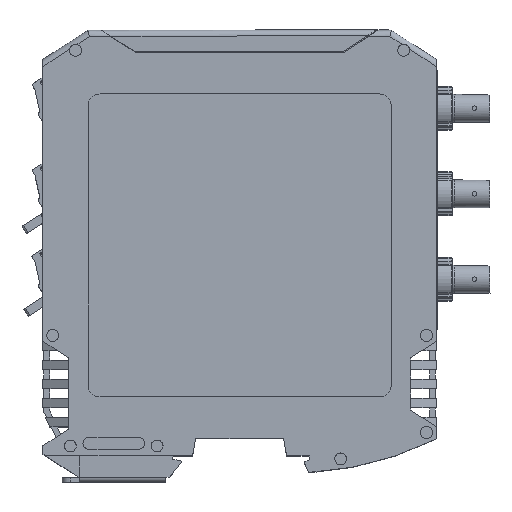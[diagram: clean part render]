
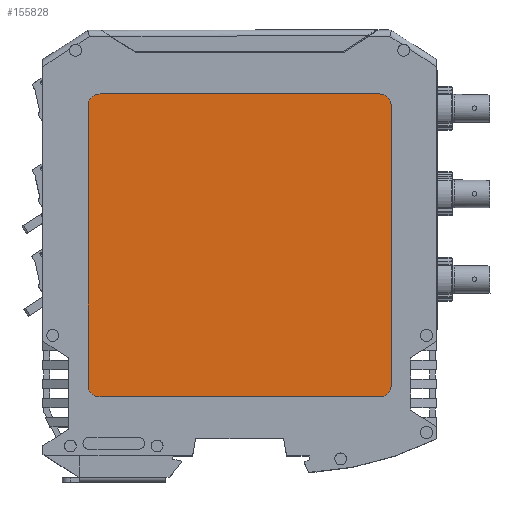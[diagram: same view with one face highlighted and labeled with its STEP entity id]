
A CAD part, top view. The second image highlights one B-rep face of the part: STEP entity #155828.
In plain terms, the highlighted planar face has unit normal (0, 0, 1).
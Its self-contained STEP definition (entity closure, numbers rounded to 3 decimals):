
#2017 = CARTESIAN_POINT ( 'NONE',  ( -35.1, 95.521, 14.1 ) ) ;
#2772 = VECTOR ( 'NONE', #153850, 1000. ) ;
#5100 = AXIS2_PLACEMENT_3D ( 'NONE', #68930, #68864, #68638 ) ;
#5694 = VERTEX_POINT ( 'NONE', #85869 ) ;
#5842 = DIRECTION ( 'NONE',  ( -1., 0., 0. ) ) ;
#6527 = AXIS2_PLACEMENT_3D ( 'NONE', #2017, #144220, #22411 ) ;
#10447 = DIRECTION ( 'NONE',  ( 0., -1., 0. ) ) ;
#13440 = CARTESIAN_POINT ( 'NONE',  ( 35.1, 25.321, 14.1 ) ) ;
#15060 = VERTEX_POINT ( 'NONE', #221851 ) ;
#16763 = ORIENTED_EDGE ( 'NONE', *, *, #238990, .T. ) ;
#19418 = CARTESIAN_POINT ( 'NONE',  ( -35.1, 98.521, 14.1 ) ) ;
#22411 = DIRECTION ( 'NONE',  ( 1., 0., 0. ) ) ;
#27379 = LINE ( 'NONE', #243536, #237408 ) ;
#33389 = EDGE_CURVE ( 'NONE', #35023, #5694, #129545, .T. ) ;
#33779 = DIRECTION ( 'NONE',  ( -1., 0., 0. ) ) ;
#34315 = EDGE_CURVE ( 'NONE', #150442, #106977, #27379, .T. ) ;
#34496 = CIRCLE ( 'NONE', #146840, 3. ) ;
#35023 = VERTEX_POINT ( 'NONE', #132976 ) ;
#36430 = ORIENTED_EDGE ( 'NONE', *, *, #170630, .T. ) ;
#38339 = VECTOR ( 'NONE', #160956, 1000. ) ;
#53618 = DIRECTION ( 'NONE',  ( 0., 0., 1. ) ) ;
#62041 = ORIENTED_EDGE ( 'NONE', *, *, #155466, .T. ) ;
#64168 = CARTESIAN_POINT ( 'NONE',  ( 38.1, 95.521, 14.1 ) ) ;
#68638 = DIRECTION ( 'NONE',  ( -1., 0., 0. ) ) ;
#68864 = DIRECTION ( 'NONE',  ( 0., 0., 1. ) ) ;
#68930 = CARTESIAN_POINT ( 'NONE',  ( -35.1, 25.321, 14.1 ) ) ;
#76121 = VERTEX_POINT ( 'NONE', #126270 ) ;
#77858 = EDGE_CURVE ( 'NONE', #5694, #199129, #212715, .T. ) ;
#84540 = ORIENTED_EDGE ( 'NONE', *, *, #77858, .T. ) ;
#85869 = CARTESIAN_POINT ( 'NONE',  ( -35.1, 22.321, 14.1 ) ) ;
#87837 = ORIENTED_EDGE ( 'NONE', *, *, #34315, .T. ) ;
#88022 = VECTOR ( 'NONE', #10447, 1000. ) ;
#94488 = ORIENTED_EDGE ( 'NONE', *, *, #33389, .T. ) ;
#104745 = CARTESIAN_POINT ( 'NONE',  ( 35.1, 22.321, 14.1 ) ) ;
#106977 = VERTEX_POINT ( 'NONE', #64168 ) ;
#111658 = CARTESIAN_POINT ( 'NONE',  ( -38.1, 95.521, 14.1 ) ) ;
#113562 = LINE ( 'NONE', #111658, #88022 ) ;
#118947 = EDGE_CURVE ( 'NONE', #15060, #35023, #113562, .T. ) ;
#124794 = EDGE_LOOP ( 'NONE', ( #16763, #62041, #133213, #165846, #94488, #84540, #36430, #87837 ) ) ;
#126270 = CARTESIAN_POINT ( 'NONE',  ( 35.1, 98.521, 14.1 ) ) ;
#127472 = DIRECTION ( 'NONE',  ( 0., 0., 1. ) ) ;
#128893 = CIRCLE ( 'NONE', #191392, 3. ) ;
#129545 = CIRCLE ( 'NONE', #5100, 3. ) ;
#132976 = CARTESIAN_POINT ( 'NONE',  ( -38.1, 25.321, 14.1 ) ) ;
#133213 = ORIENTED_EDGE ( 'NONE', *, *, #145839, .T. ) ;
#143079 = CARTESIAN_POINT ( 'NONE',  ( -35.1, 98.521, 14.1 ) ) ;
#144220 = DIRECTION ( 'NONE',  ( 0., 0., 1. ) ) ;
#145839 = EDGE_CURVE ( 'NONE', #247704, #15060, #158065, .T. ) ;
#146840 = AXIS2_PLACEMENT_3D ( 'NONE', #13440, #155635, #33779 ) ;
#150442 = VERTEX_POINT ( 'NONE', #242186 ) ;
#153850 = DIRECTION ( 'NONE',  ( 1., 0., 0. ) ) ;
#155466 = EDGE_CURVE ( 'NONE', #76121, #247704, #200617, .T. ) ;
#155635 = DIRECTION ( 'NONE',  ( 0., 0., 1. ) ) ;
#155828 = ADVANCED_FACE ( 'NONE', ( #168563 ), #184323, .T. ) ;
#158065 = CIRCLE ( 'NONE', #254193, 3. ) ;
#160956 = DIRECTION ( 'NONE',  ( -1., 0., 0. ) ) ;
#165846 = ORIENTED_EDGE ( 'NONE', *, *, #118947, .T. ) ;
#168563 = FACE_OUTER_BOUND ( 'NONE', #124794, .T. ) ;
#170630 = EDGE_CURVE ( 'NONE', #199129, #150442, #34496, .T. ) ;
#175478 = CARTESIAN_POINT ( 'NONE',  ( -35.1, 95.521, 14.1 ) ) ;
#184323 = PLANE ( 'NONE',  #6527 ) ;
#191392 = AXIS2_PLACEMENT_3D ( 'NONE', #249468, #127472, #5842 ) ;
#195866 = DIRECTION ( 'NONE',  ( -1., 0., 0. ) ) ;
#199129 = VERTEX_POINT ( 'NONE', #104745 ) ;
#200617 = LINE ( 'NONE', #143079, #38339 ) ;
#212715 = LINE ( 'NONE', #255292, #2772 ) ;
#221851 = CARTESIAN_POINT ( 'NONE',  ( -38.1, 95.521, 14.1 ) ) ;
#237408 = VECTOR ( 'NONE', #241718, 1000. ) ;
#238990 = EDGE_CURVE ( 'NONE', #106977, #76121, #128893, .T. ) ;
#241718 = DIRECTION ( 'NONE',  ( 0., 1., 0. ) ) ;
#242186 = CARTESIAN_POINT ( 'NONE',  ( 38.1, 25.321, 14.1 ) ) ;
#243536 = CARTESIAN_POINT ( 'NONE',  ( 38.1, 95.521, 14.1 ) ) ;
#247704 = VERTEX_POINT ( 'NONE', #19418 ) ;
#249468 = CARTESIAN_POINT ( 'NONE',  ( 35.1, 95.521, 14.1 ) ) ;
#254193 = AXIS2_PLACEMENT_3D ( 'NONE', #175478, #53618, #195866 ) ;
#255292 = CARTESIAN_POINT ( 'NONE',  ( -35.1, 22.321, 14.1 ) ) ;
